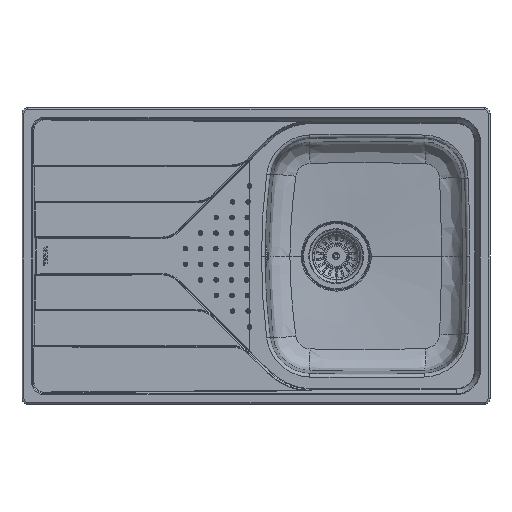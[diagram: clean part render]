
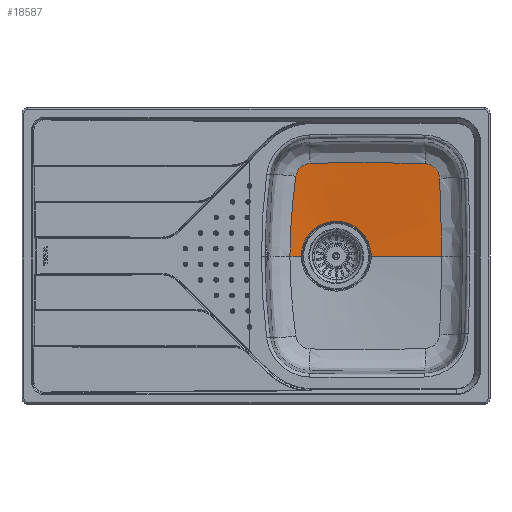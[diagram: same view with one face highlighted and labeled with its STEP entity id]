
A CAD part, top view. The second image highlights one B-rep face of the part: STEP entity #18587.
In plain terms, the highlighted conical face has half-angle 85 degrees and reference radius 141.259 mm.
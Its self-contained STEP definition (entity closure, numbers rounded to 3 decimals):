
#6027=CARTESIAN_POINT('',(320.537,131.617,-139.557));
#6028=CARTESIAN_POINT('',(320.973,121.8,-140.044));
#6029=CARTESIAN_POINT('',(321.742,102.628,-140.923));
#6030=CARTESIAN_POINT('',(322.624,74.559,-141.961));
#6031=CARTESIAN_POINT('',(323.025,56.615,-142.442));
#6032=CARTESIAN_POINT('',(323.183,47.647,-142.632));
#6220=CARTESIAN_POINT('',(296.182,155.78,-139.729));
#6236=CARTESIAN_POINT('',(77.804,134.865,-145.241));
#6237=CARTESIAN_POINT('',(77.114,129.686,-145.618));
#6238=CARTESIAN_POINT('',(75.879,119.879,-146.318));
#6239=CARTESIAN_POINT('',(74.39,106.846,-147.214));
#6240=CARTESIAN_POINT('',(73.178,95.19,-147.98));
#6241=CARTESIAN_POINT('',(72.183,84.691,-148.635));
#6242=CARTESIAN_POINT('',(71.353,75.101,-149.199));
#6243=CARTESIAN_POINT('',(70.648,66.156,-149.69));
#6244=CARTESIAN_POINT('',(70.041,57.635,-150.12));
#6245=CARTESIAN_POINT('',(69.517,49.403,-150.496));
#6246=CARTESIAN_POINT('',(69.065,41.309,-150.823));
#6247=CARTESIAN_POINT('',(68.682,33.221,-151.101));
#6248=CARTESIAN_POINT('',(68.367,24.989,-151.329));
#6249=CARTESIAN_POINT('',(68.133,16.682,-151.498));
#6250=CARTESIAN_POINT('',(67.99,8.328,-151.601));
#6251=CARTESIAN_POINT('',(67.958,2.796,-151.624));
#6252=CARTESIAN_POINT('',(67.958,0.,
-151.624));
#6254=CARTESIAN_POINT('',(101.993,156.542,-144.259));
#6255=CARTESIAN_POINT('',(100.559,156.496,-144.227));
#6256=CARTESIAN_POINT('',(97.352,156.118,-144.177));
#6257=CARTESIAN_POINT('',(92.56,154.597,-144.168));
#6258=CARTESIAN_POINT('',(87.891,151.937,-144.243));
#6259=CARTESIAN_POINT('',(83.89,148.364,-144.399));
#6260=CARTESIAN_POINT('',(80.743,144.048,-144.632));
#6261=CARTESIAN_POINT('',(78.707,139.462,-144.918));
#6262=CARTESIAN_POINT('',(77.997,136.31,-145.136));
#6263=CARTESIAN_POINT('',(77.804,134.865,-145.241));
#6265=CARTESIAN_POINT('',(296.182,155.78,-139.729));
#6266=CARTESIAN_POINT('',(286.2,156.13,-140.304));
#6267=CARTESIAN_POINT('',(266.496,156.738,-141.378));
#6268=CARTESIAN_POINT('',(237.504,157.394,-142.73));
#6269=CARTESIAN_POINT('',(209.14,157.787,-143.772));
#6270=CARTESIAN_POINT('',(181.378,157.907,-144.464));
#6271=CARTESIAN_POINT('',(154.267,157.742,-144.78));
#6272=CARTESIAN_POINT('',(127.687,157.289,-144.717));
#6273=CARTESIAN_POINT('',(110.639,156.821,-144.448));
#6274=CARTESIAN_POINT('',(101.993,156.542,-144.259));
#6276=CARTESIAN_POINT('',(320.537,131.617,-139.557));
#6277=CARTESIAN_POINT('',(320.478,132.933,-139.491));
#6278=CARTESIAN_POINT('',(320.113,135.886,-139.359));
#6279=CARTESIAN_POINT('',(318.743,140.32,-139.211));
#6280=CARTESIAN_POINT('',(316.377,144.701,-139.123));
#6281=CARTESIAN_POINT('',(313.205,148.543,-139.109));
#6282=CARTESIAN_POINT('',(309.349,151.695,-139.17));
#6283=CARTESIAN_POINT('',(304.96,154.036,-139.303));
#6284=CARTESIAN_POINT('',(300.5,155.388,-139.494));
#6285=CARTESIAN_POINT('',(297.522,155.733,-139.651));
#6286=CARTESIAN_POINT('',(296.182,155.78,-139.729));
#6288=CARTESIAN_POINT('',(323.609,0.,
-143.146));
#6289=CARTESIAN_POINT('',(323.609,5.331,-143.146));
#6290=CARTESIAN_POINT('',(323.577,15.896,-143.108));
#6291=CARTESIAN_POINT('',(323.435,31.808,-142.934));
#6292=CARTESIAN_POINT('',(323.277,42.345,-142.745));
#6293=CARTESIAN_POINT('',(323.183,47.647,-142.632));
#6310=CARTESIAN_POINT('',(146.05,0.,
-153.363));
#6311=DIRECTION('',(0.001,0.,1.));
#6312=DIRECTION('',(0.,1.,0.));
#6313=AXIS2_PLACEMENT_3D('',#6310,#6311,#6312);
#6315=CARTESIAN_POINT('',(146.05,0.,
-153.363));
#6316=DIRECTION('',(0.001,0.,1.));
#6317=DIRECTION('',(0.966,0.26,-0.001));
#6318=AXIS2_PLACEMENT_3D('',#6315,#6316,#6317);
#6320=CARTESIAN_POINT('',(146.05,0.,
-153.363));
#6321=DIRECTION('',(0.001,0.,1.));
#6322=DIRECTION('',(1.,0.,-0.001));
#6323=AXIS2_PLACEMENT_3D('',#6320,#6321,#6322);
#6338=DIRECTION('',(-0.996,0.,-0.086));
#6339=VECTOR('',#6338,119.003);
#6340=CARTESIAN_POINT('',(323.609,0.,
-143.146));
#6341=LINE('',#6340,#6339);
#6347=CARTESIAN_POINT('',(323.609,0.,
-143.146));
#6390=CARTESIAN_POINT('',(67.958,0.,
-151.624));
#6407=DIRECTION('',(-0.996,0.,0.088));
#6408=VECTOR('',#6407,19.167);
#6409=CARTESIAN_POINT('',(87.05,0.,
-153.312));
#6410=LINE('',#6409,#6408);
#6450=CARTESIAN_POINT('',(77.804,134.865,-145.241));
#7163=VERTEX_POINT('',#6390);
#7165=CARTESIAN_POINT('',(205.05,0.,
-153.415));
#7167=VERTEX_POINT('',#7165);
#7175=CARTESIAN_POINT('',(87.05,0.,
-153.312));
#7176=VERTEX_POINT('',#7175);
#7182=VERTEX_POINT('',#6347);
#7426=VERTEX_POINT('',#6220);
#7427=VERTEX_POINT('',#6276);
#7431=VERTEX_POINT('',#6450);
#7432=VERTEX_POINT('',#6254);
#7444=CARTESIAN_POINT('',(146.05,59.,-153.363));
#7445=VERTEX_POINT('',#7444);
#7446=CARTESIAN_POINT('',(203.025,15.327,-153.413));
#7447=VERTEX_POINT('',#7446);
#7452=VERTEX_POINT('',#6293);
#18562=CARTESIAN_POINT('',(146.056,0.,
-146.166));
#18563=DIRECTION('',(0.001,0.,1.));
#18564=DIRECTION('',(0.966,0.26,-0.001));
#18565=AXIS2_PLACEMENT_3D('',#18562,#18563,#18564);
#18566=CONICAL_SURFACE('',#18565,141.259,85.);
#18568=ORIENTED_EDGE('',*,*,#18567,.T.);
#18570=ORIENTED_EDGE('',*,*,#18569,.T.);
#18572=ORIENTED_EDGE('',*,*,#18571,.F.);
#18574=ORIENTED_EDGE('',*,*,#18573,.F.);
#18575=ORIENTED_EDGE('',*,*,#18555,.F.);
#18576=ORIENTED_EDGE('',*,*,#18135,.F.);
#18577=ORIENTED_EDGE('',*,*,#18180,.T.);
#18578=ORIENTED_EDGE('',*,*,#18178,.F.);
#18580=ORIENTED_EDGE('',*,*,#18579,.T.);
#18582=ORIENTED_EDGE('',*,*,#18581,.T.);
#18584=ORIENTED_EDGE('',*,*,#18583,.T.);
#18585=EDGE_LOOP('',(#18568,#18570,#18572,#18574,#18575,#18576,#18577,#18578,
#18580,#18582,#18584));
#18586=FACE_OUTER_BOUND('',#18585,.F.);
#18587=ADVANCED_FACE('',(#18586),#18566,.F.);
#6033=B_SPLINE_CURVE_WITH_KNOTS('',3,(#6027,#6028,#6029,#6030,#6031,#6032),
.UNSPECIFIED.,.F.,.F.,(4,1,1,4),(0.,0.333,0.667,1.),
.UNSPECIFIED.);
#6253=B_SPLINE_CURVE_WITH_KNOTS('',3,(#6236,#6237,#6238,#6239,#6240,#6241,#6242,
#6243,#6244,#6245,#6246,#6247,#6248,#6249,#6250,#6251,#6252),.UNSPECIFIED.,.F.,
.F.,(4,1,1,1,1,1,1,1,1,1,1,1,1,1,4),(0.,0.071,0.143,
0.214,0.286,0.357,0.429,0.5,
0.571,0.643,0.714,0.786,
0.857,0.929,1.),.UNSPECIFIED.);
#6264=B_SPLINE_CURVE_WITH_KNOTS('',3,(#6254,#6255,#6256,#6257,#6258,#6259,#6260,
#6261,#6262,#6263),.UNSPECIFIED.,.F.,.F.,(4,1,1,1,1,1,1,4),(0.,
0.122,0.272,0.423,0.574,
0.724,0.875,1.),.UNSPECIFIED.);
#6275=B_SPLINE_CURVE_WITH_KNOTS('',3,(#6265,#6266,#6267,#6268,#6269,#6270,#6271,
#6272,#6273,#6274),.UNSPECIFIED.,.F.,.F.,(4,1,1,1,1,1,1,4),(0.,
0.143,0.286,0.429,0.571,
0.714,0.857,1.),.UNSPECIFIED.);
#6287=B_SPLINE_CURVE_WITH_KNOTS('',3,(#6276,#6277,#6278,#6279,#6280,#6281,#6282,
#6283,#6284,#6285,#6286),.UNSPECIFIED.,.F.,.F.,(4,1,1,1,1,1,1,1,4),(0.,
0.105,0.236,0.368,0.499,
0.63,0.761,0.893,1.),.UNSPECIFIED.);
#6294=B_SPLINE_CURVE_WITH_KNOTS('',3,(#6288,#6289,#6290,#6291,#6292,#6293),
.UNSPECIFIED.,.F.,.F.,(4,1,1,4),(0.,0.333,0.667,1.),
.UNSPECIFIED.);
#6314=CIRCLE('',#6313,59.);
#6319=CIRCLE('',#6318,59.);
#6324=CIRCLE('',#6323,59.);
#18135=EDGE_CURVE('',#7427,#7426,#6287,.T.);
#18178=EDGE_CURVE('',#7182,#7452,#6294,.T.);
#18180=EDGE_CURVE('',#7427,#7452,#6033,.T.);
#18555=EDGE_CURVE('',#7426,#7432,#6275,.T.);
#18567=EDGE_CURVE('',#7445,#7176,#6314,.T.);
#18569=EDGE_CURVE('',#7176,#7163,#6410,.T.);
#18571=EDGE_CURVE('',#7431,#7163,#6253,.T.);
#18573=EDGE_CURVE('',#7432,#7431,#6264,.T.);
#18579=EDGE_CURVE('',#7182,#7167,#6341,.T.);
#18581=EDGE_CURVE('',#7167,#7447,#6324,.T.);
#18583=EDGE_CURVE('',#7447,#7445,#6319,.T.);
